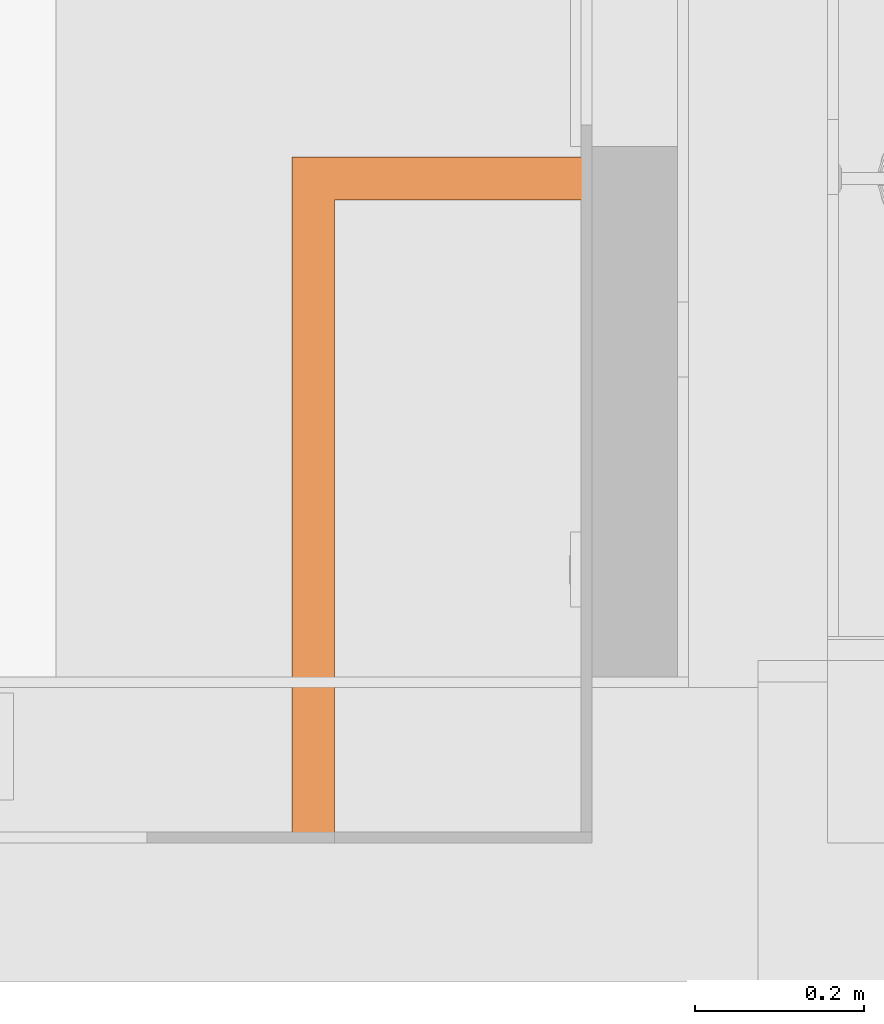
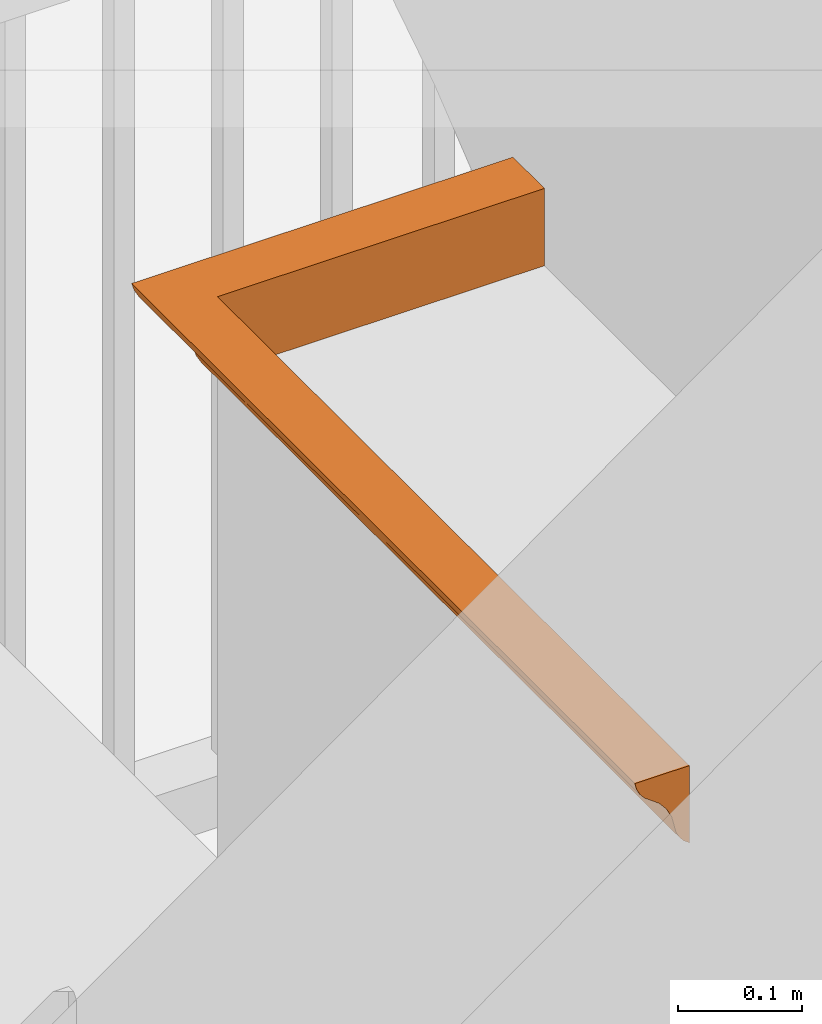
# One storey, part 80 of 81: 1 proxy.
"""IFC2X3 building model written with IfcOpenShell, lengths in feet."""

from ifc_helpers import new_model, entity, si_unit, converted_unit, derived_unit, direction, frame, origin, place, context, subcontext, project, spatial, faceted_brep, source, transform, mapped, material, type_object, type_shapes, element, save


model = new_model("IFC2X3")

# Units and contexts
model_context = context("Model", 3, precision=0.0001, world=origin(), true_north=direction((6.12303176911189e-17, 1.0)))
body_context = subcontext(model_context, "Body", "Model", "MODEL_VIEW")
ifc_project = project(units=[converted_unit("LENGTHUNIT", "FOOT", entity("IfcRatioMeasure", 0.3048), si_unit("LENGTHUNIT", "METRE"), dimensions=[1, 0, 0, 0, 0, 0, 0]), converted_unit("AREAUNIT", "SQUARE FOOT", entity("IfcRatioMeasure", 0.09290304), si_unit("AREAUNIT", "SQUARE_METRE"), dimensions=[2, 0, 0, 0, 0, 0, 0]), converted_unit("VOLUMEUNIT", "CUBIC FOOT", entity("IfcRatioMeasure", 0.028316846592), si_unit("VOLUMEUNIT", "CUBIC_METRE"), dimensions=[3, 0, 0, 0, 0, 0, 0]), converted_unit("PLANEANGLEUNIT", "DEGREE", entity("IfcRatioMeasure", 0.0174532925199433), si_unit("PLANEANGLEUNIT", "RADIAN"), dimensions=[0, 0, 0, 0, 0, 0, 0]), si_unit("MASSUNIT", "GRAM", prefix="KILO"), derived_unit("MASSDENSITYUNIT", [(si_unit("MASSUNIT", "GRAM", prefix="KILO"), 1), (si_unit("LENGTHUNIT", "METRE"), -3)]), derived_unit("MOMENTOFINERTIAUNIT", [(si_unit("LENGTHUNIT", "METRE"), 4)]), si_unit("TIMEUNIT", "SECOND"), si_unit("FREQUENCYUNIT", "HERTZ"), si_unit("THERMODYNAMICTEMPERATUREUNIT", "DEGREE_CELSIUS"), derived_unit("THERMALTRANSMITTANCEUNIT", [(si_unit("MASSUNIT", "GRAM", prefix="KILO"), 1), (si_unit("THERMODYNAMICTEMPERATUREUNIT", "KELVIN"), -1), (si_unit("TIMEUNIT", "SECOND"), -3)]), derived_unit("VOLUMETRICFLOWRATEUNIT", [(si_unit("LENGTHUNIT", "METRE"), 3), (si_unit("TIMEUNIT", "SECOND"), -1)]), si_unit("ELECTRICCURRENTUNIT", "AMPERE"), si_unit("ELECTRICVOLTAGEUNIT", "VOLT"), si_unit("POWERUNIT", "WATT"), si_unit("FORCEUNIT", "NEWTON"), si_unit("ILLUMINANCEUNIT", "LUX"), si_unit("LUMINOUSFLUXUNIT", "LUMEN"), si_unit("LUMINOUSINTENSITYUNIT", "CANDELA"), derived_unit("USERDEFINED", [(si_unit("MASSUNIT", "GRAM", prefix="KILO"), -1), (si_unit("LENGTHUNIT", "METRE"), -2), (si_unit("TIMEUNIT", "SECOND"), 3), (si_unit("LUMINOUSFLUXUNIT", "LUMEN"), 1)]), derived_unit("LINEARVELOCITYUNIT", [(si_unit("LENGTHUNIT", "METRE"), 1), (si_unit("TIMEUNIT", "SECOND"), -1)]), si_unit("PRESSUREUNIT", "PASCAL"), derived_unit("USERDEFINED", [(si_unit("LENGTHUNIT", "METRE"), -2), (si_unit("MASSUNIT", "GRAM", prefix="KILO"), 1), (si_unit("TIMEUNIT", "SECOND"), -2)]), derived_unit("LINEARFORCEUNIT", [(si_unit("MASSUNIT", "GRAM", prefix="KILO"), 1), (si_unit("LENGTHUNIT", "METRE"), 1), (si_unit("TIMEUNIT", "SECOND"), -2), (si_unit("LENGTHUNIT", "METRE"), -1)]), derived_unit("PLANARFORCEUNIT", [(si_unit("MASSUNIT", "GRAM", prefix="KILO"), 1), (si_unit("LENGTHUNIT", "METRE"), 1), (si_unit("TIMEUNIT", "SECOND"), -2), (si_unit("LENGTHUNIT", "METRE"), -2)])], contexts=[model_context])

# Site, building, storey
site_placement = place(None, origin())
site = spatial("IfcSite", under=ifc_project, at=site_placement, Name="Default", CompositionType="ELEMENT")
building_placement = place(site_placement, origin())
building = spatial("IfcBuilding", under=site, at=building_placement, CompositionType="ELEMENT")
storey_placement = place(building_placement, origin())
storey = spatial("IfcBuildingStorey", under=building, at=storey_placement, Name="First floor", CompositionType="ELEMENT", Elevation=0.0)

# Proxy
ifc_material = material(Name="Default New Material")
building_element_proxy_type = type_object("IfcBuildingElementProxyType", Name="Generic Models 29:Generic Models 28", PredefinedType="NOTDEFINED", material=ifc_material)
shared_shape = source(origin(), body_context, "Body", "Brep", [
    faceted_brep([(1.17190049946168, 2.51737449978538, 0.0179947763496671), (1.17190049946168, 2.53133511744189, 0.0344208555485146), (1.17190049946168, 2.54112818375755, 0.0536253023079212), (1.17190049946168, 2.5462250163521, 0.0745713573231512), (1.17190049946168, 2.55440824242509, 0.108201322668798), (1.17190049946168, 2.57013151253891, 0.139035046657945), (1.17190049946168, 2.59254600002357, 0.165407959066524), (1.17190049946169, 2.62044165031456, 0.185896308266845), (1.17190049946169, 2.63781615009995, 0.198657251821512), (1.17190049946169, 2.65177676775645, 0.215083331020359), (1.17190049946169, 2.66156983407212, 0.234287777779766), (1.17190049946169, 2.66666666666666, 0.255233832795), (1.17190049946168, 2.49999999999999, 0.255233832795), (1.17190049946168, 2.49999999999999, 0.00523383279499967), (0.476953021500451, 2.51318223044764, 0.0143188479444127), (0.154525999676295, 2.51737449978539, 0.0179947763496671), (0.663213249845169, 2.5248334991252, 0.0258009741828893), (0.130772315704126, 2.54112818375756, 0.0536253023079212), (0.125675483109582, 2.5462250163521, 0.0745713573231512), (0.430273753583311, 2.5462250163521, 0.0745713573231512), (0.73487202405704, 2.5462250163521, 0.0745713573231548), (0.77341230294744, 2.51339187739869, 0.0144923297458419), (0.671900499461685, 2.5, 0.00523383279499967), (0.689724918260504, 2.54241448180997, 0.0573324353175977), (0.648787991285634, 2.5462250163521, 0.0745713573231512), (0.862932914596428, 2.53679130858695, 0.0437376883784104), (0.50314522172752, 2.53704884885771, 0.0442465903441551), (0.140565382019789, 2.5313351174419, 0.0344208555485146), (0.171900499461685, 2.5, 0.00523383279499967), (0.644696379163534, 2.56137131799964, 0.124076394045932), (0.117492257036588, 2.5544082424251, 0.108201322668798), (0.741902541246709, 2.55163857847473, 0.100011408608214), (0.0793544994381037, 2.59254600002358, 0.165407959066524), (0.0514588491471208, 2.62044165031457, 0.185896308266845), (0.56270357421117, 2.62044165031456, 0.185896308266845), (0.823374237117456, 2.62044165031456, 0.185896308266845), (0.867302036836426, 2.62044165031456, 0.185896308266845), (0.625627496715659, 2.58134046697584, 0.15377374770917), (0.101768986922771, 2.57013151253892, 0.139035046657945), (0.570637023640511, 2.64604801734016, 0.207384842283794), (0.369511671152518, 2.63418645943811, 0.195449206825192), (0.0201237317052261, 2.65177676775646, 0.215083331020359), (0.0340843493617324, 2.63781615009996, 0.198657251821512), (0.715002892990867, 2.63412870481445, 0.195400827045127), (0.740866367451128, 2.66349297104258, 0.24004443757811), (0.309832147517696, 2.66666666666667, 0.255233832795), (0.614430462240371, 2.66666666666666, 0.255233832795), (0.867302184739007, 2.66666666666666, 0.255233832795), (0.798513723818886, 2.65723295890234, 0.224400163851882), (0.898316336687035, 2.64540588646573, 0.206617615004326), (0.0103306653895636, 2.66156983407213, 0.234287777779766), (0.00523383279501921, 2.66666666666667, 0.255233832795), (0.377707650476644, 2.65748701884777, 0.22490213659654), (0.00523383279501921, 2.36206822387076, 0.255233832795), (0.00523383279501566, 2.0574693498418, 0.255233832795), (0.00523383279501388, 1.69540134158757, 0.255233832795), (0.00523383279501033, 1.33333333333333, 0.255233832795), (0.00523383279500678, 0.971264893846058, 0.255233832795), (0.005233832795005, 0.609196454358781, 0.255233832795), (0.00523383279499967, 0.304598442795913, 0.255233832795), (0.00523383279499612, 0.0, 0.255233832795), (0.171900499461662, 0.0, 0.255233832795), (0.171900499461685, 2.5, 0.255233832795), (0.156071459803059, 1.6145246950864, 0.0165874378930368), (0.17190049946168, 1.89080335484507, 0.00523383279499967), (0.171900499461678, 1.55459852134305, 0.00523383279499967), (0.130010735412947, 0.807283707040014, 0.0557584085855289), (0.125675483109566, 0.609196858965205, 0.0745713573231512), (0.125675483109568, 0.771915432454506, 0.0745713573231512), (0.125675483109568, 0.96851407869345, 0.0745713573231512), (0.140565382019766, 0.0, 0.0344208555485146), (0.130772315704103, 0.0, 0.0536253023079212), (0.135109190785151, 0.528376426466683, 0.0437376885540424), (0.1467184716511, 2.28028465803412, 0.0262134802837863), (0.134853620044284, 2.17158243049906, 0.0442426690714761), (0.12567548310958, 2.24162699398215, 0.0745713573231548), (0.159154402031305, 0.45689760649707, 0.0139612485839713), (0.154525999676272, 0.0, 0.0179947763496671), (0.14706700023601, 0.360940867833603, 0.0258009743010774), (0.133081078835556, 1.6197934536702, 0.0479768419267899), (0.142208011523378, 1.67605748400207, 0.0320382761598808), (0.142841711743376, 1.35721744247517, 0.0311600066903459), (0.125675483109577, 1.93702856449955, 0.0745713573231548), (0.158838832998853, 2.04310239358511, 0.0142195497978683), (0.171900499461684, 2.19540167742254, 0.00523383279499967), (0.132242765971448, 1.14817275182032, 0.049907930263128), (0.125675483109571, 1.32783170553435, 0.0745713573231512), (0.128767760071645, 0.456897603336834, 0.0596566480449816), (0.125675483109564, 0.304598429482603, 0.0745713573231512), (0.171900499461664, 0.304598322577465, 0.00523383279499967), (0.171900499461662, 0.0, 0.00523383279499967), (0.155851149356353, 1.27182243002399, 0.0167841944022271), (0.171900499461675, 1.21839368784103, 0.00523383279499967), (0.171900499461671, 0.913795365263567, 0.00523383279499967), (0.146284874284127, 1.97425940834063, 0.0267335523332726), (0.137597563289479, 0.896542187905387, 0.0391780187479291), (0.149605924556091, 0.648339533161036, 0.0229356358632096), (0.125675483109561, 0.0, 0.0745713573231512), (0.12567548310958, 2.16026732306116, 0.0745713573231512), (0.125675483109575, 1.5438308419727, 0.0745713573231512), (0.125675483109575, 1.63243013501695, 0.0745713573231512), (0.171900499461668, 0.609196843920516, 0.00523383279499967), (0.148642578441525, 0.942073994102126, 0.0239949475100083), (0.101768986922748, 0.0, 0.139035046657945), (0.11052918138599, 0.455823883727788, 0.124076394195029), (0.117492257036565, 0.0, 0.108201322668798), (0.0514588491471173, 1.84852622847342, 0.185896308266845), (0.0514588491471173, 2.01124496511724, 0.185896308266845), (0.0514588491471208, 2.31584341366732, 0.185896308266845), (0.0793544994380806, 0.0, 0.165407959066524), (0.0514588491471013, 0.0, 0.185896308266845), (0.0340843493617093, 0.0, 0.198657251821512), (0.0514588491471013, 0.304598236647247, 0.185896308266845), (0.0514588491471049, 0.538305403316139, 0.185896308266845), (0.090764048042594, 2.18750932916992, 0.153537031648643), (0.11010511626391, 1.96448238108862, 0.124901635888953), (0.12061507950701, 1.9311509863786, 0.0988406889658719), (0.0913303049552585, 0.631613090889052, 0.152874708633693), (0.088717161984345, 1.16149555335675, 0.155867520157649), (0.105455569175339, 1.46823784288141, 0.133218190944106), (0.110529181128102, 0.999542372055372, 0.124076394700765), (0.121190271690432, 0.45692686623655, 0.0968548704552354), (0.0717838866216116, 0.807458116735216, 0.171997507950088), (0.0514588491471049, 0.609196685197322, 0.185896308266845), (0.0514588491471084, 0.913795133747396, 0.185896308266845), (0.0514588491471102, 1.07661080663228, 0.185896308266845), (0.0900498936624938, 1.69460365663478, 0.154361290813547), (0.0514588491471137, 1.46256846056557, 0.185896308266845), (0.120393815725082, 0.914246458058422, 0.0995782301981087), (0.118023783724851, 1.47051869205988, 0.106744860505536), (0.0514588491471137, 1.61481927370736, 0.185896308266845), (0.0514588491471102, 1.21839358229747, 0.185896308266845), (0.0355262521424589, 1.22767271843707, 0.197342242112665), (0.00953519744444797, 0.814612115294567, 0.236519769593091), (0.020123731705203, 0.0, 0.215083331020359), (0.0103306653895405, 0.0, 0.234287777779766), (0.0146675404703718, 0.528376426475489, 0.224400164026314), (0.0266253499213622, 0.36094086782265, 0.206463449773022), (0.0144119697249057, 2.29202408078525, 0.22490514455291), (0.0124507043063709, 1.72583030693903, 0.229063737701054), (0.0150219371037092, 1.44258361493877, 0.22371228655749), (0.00836926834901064, 1.49352150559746, 0.240173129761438), (0.0387127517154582, 0.456897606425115, 0.194623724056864), (0.0167047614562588, 1.97744672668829, 0.220623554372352), (0.0258432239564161, 2.09470105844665, 0.207396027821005), (0.00832610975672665, 0.456897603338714, 0.240319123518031), (0.0262768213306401, 2.4007263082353, 0.206875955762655), (0.0383971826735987, 2.16354404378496, 0.194882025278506), (0.037752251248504, 1.8203205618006, 0.195417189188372), (0.0297071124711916, 1.53360813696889, 0.203015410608), (0.00962196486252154, 2.03274029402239, 0.236267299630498), (0.0129875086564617, 1.15229919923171, 0.227871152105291), (0.0175013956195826, 0.838992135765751, 0.219252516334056), (0.0258439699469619, 1.80527626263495, 0.207395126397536), (0.0291642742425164, 0.648339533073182, 0.203598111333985), (0.0223986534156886, 1.260220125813, 0.211824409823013), (0.0282009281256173, 0.942073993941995, 0.204657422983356)], [[[0, 1, 2, 3, 4, 5, 6, 7, 8, 9, 10, 11, 12, 13]], [[14, 15, 16]], [[17, 18, 19]], [[3, 2, 20]], [[21, 13, 22]], [[0, 16, 1]], [[23, 19, 24, 20]], [[25, 2, 1]], [[17, 26, 27]], [[23, 25, 26]], [[22, 14, 21]], [[26, 16, 27]], [[25, 16, 26]], [[26, 17, 19]], [[14, 28, 15]], [[23, 2, 25]], [[16, 25, 1]], [[19, 23, 26]], [[27, 16, 15]], [[2, 23, 20]], [[21, 14, 16]], [[28, 14, 22]], [[16, 0, 21]], [[13, 21, 0]], [[29, 5, 4]], [[18, 30, 31]], [[31, 29, 4]], [[32, 33, 34, 35]], [[6, 35, 36, 8, 7]], [[5, 29, 37]], [[38, 37, 29]], [[3, 31, 4]], [[6, 37, 35]], [[29, 30, 38]], [[37, 38, 32]], [[37, 32, 35]], [[31, 3, 20, 24, 19, 18]], [[37, 6, 5]], [[29, 31, 30]], [[39, 40, 41]], [[33, 42, 40]], [[43, 36, 35, 34]], [[44, 45, 46, 47]], [[48, 9, 49]], [[43, 8, 36]], [[40, 43, 34]], [[44, 10, 48]], [[10, 47, 11]], [[50, 51, 45]], [[10, 44, 47]], [[9, 48, 10]], [[49, 8, 43]], [[40, 39, 43]], [[52, 39, 41]], [[50, 45, 52]], [[48, 39, 52]], [[41, 50, 52]], [[43, 39, 49]], [[33, 40, 34]], [[40, 42, 41]], [[48, 49, 39]], [[8, 49, 9]], [[52, 45, 44]], [[52, 44, 48]], [[11, 47, 46, 45, 51, 53, 54, 55, 56, 57, 58, 59, 60, 61, 62, 12]], [[13, 12, 62, 28, 22]], [[63, 64, 65]], [[66, 67, 68, 69]], [[70, 71, 72]], [[27, 73, 74]], [[74, 75, 17]], [[76, 77, 78]], [[79, 80, 81]], [[70, 78, 77]], [[74, 79, 82]], [[64, 83, 84]], [[79, 85, 86]], [[78, 70, 72]], [[67, 87, 88]], [[15, 28, 84]], [[77, 89, 90]], [[87, 71, 88]], [[91, 65, 92, 93]], [[27, 74, 17]], [[27, 15, 73]], [[94, 80, 74]], [[81, 95, 85]], [[94, 83, 63]], [[95, 96, 72]], [[72, 87, 66]], [[80, 63, 81]], [[63, 83, 64]], [[84, 83, 15]], [[83, 94, 73]], [[81, 63, 91]], [[81, 85, 79]], [[71, 97, 88]], [[75, 98, 30, 18, 17]], [[79, 86, 99, 100, 82]], [[71, 87, 72]], [[95, 66, 85]], [[85, 69, 86]], [[95, 72, 66]], [[67, 66, 87]], [[69, 85, 66]], [[77, 76, 89]], [[101, 89, 76]], [[96, 76, 78]], [[72, 96, 78]], [[102, 93, 96]], [[74, 82, 98, 75]], [[95, 102, 96]], [[65, 91, 63]], [[95, 81, 102]], [[83, 73, 15]], [[74, 73, 94]], [[101, 96, 93]], [[102, 81, 91]], [[91, 93, 102]], [[101, 76, 96]], [[74, 80, 79]], [[63, 80, 94]], [[103, 104, 105]], [[32, 106, 107, 108, 42, 33]], [[109, 110, 111, 112, 113]], [[114, 38, 115]], [[115, 30, 116]], [[104, 103, 117]], [[118, 119, 120]], [[121, 68, 67, 88, 97]], [[109, 117, 103]], [[122, 113, 123, 124, 125]], [[126, 118, 127]], [[128, 121, 104]], [[115, 38, 30]], [[114, 126, 106]], [[38, 114, 32]], [[122, 117, 109]], [[120, 129, 128]], [[120, 119, 129]], [[120, 128, 104]], [[113, 122, 109]], [[126, 127, 130, 106]], [[129, 115, 116]], [[117, 122, 118]], [[117, 118, 120]], [[129, 116, 99]], [[105, 104, 121]], [[120, 104, 117]], [[105, 121, 97]], [[128, 68, 121]], [[128, 99, 86, 69, 68]], [[99, 128, 129]], [[116, 98, 82, 100, 99]], [[126, 115, 119]], [[129, 119, 115]], [[126, 119, 118]], [[32, 114, 106]], [[126, 114, 115]], [[118, 122, 125]], [[118, 125, 131, 127]], [[98, 116, 30]], [[132, 130, 127, 131, 125, 124]], [[133, 58, 57]], [[134, 135, 136]], [[137, 134, 136]], [[138, 53, 50]], [[139, 140, 141]], [[142, 111, 137]], [[134, 137, 111]], [[143, 138, 144]], [[145, 135, 59]], [[141, 55, 139]], [[41, 146, 138]], [[58, 145, 59]], [[41, 42, 146]], [[107, 147, 108]], [[148, 130, 149]], [[41, 138, 50]], [[150, 143, 139]], [[151, 152, 133]], [[148, 153, 144]], [[154, 124, 123]], [[152, 154, 136]], [[133, 136, 145]], [[155, 149, 132]], [[147, 148, 144]], [[149, 130, 132]], [[147, 107, 148]], [[108, 147, 42]], [[147, 144, 146]], [[148, 107, 106, 130]], [[148, 149, 153]], [[135, 60, 59]], [[53, 51, 50]], [[151, 57, 56]], [[135, 145, 136]], [[133, 145, 58]], [[136, 133, 152]], [[140, 149, 155]], [[57, 151, 133]], [[151, 155, 152]], [[111, 142, 112]], [[142, 123, 113, 112]], [[154, 142, 137]], [[136, 154, 137]], [[156, 124, 154]], [[138, 150, 53]], [[154, 152, 156]], [[140, 153, 149]], [[143, 153, 139]], [[147, 146, 42]], [[138, 146, 144]], [[55, 150, 139]], [[54, 53, 150, 55]], [[138, 143, 150]], [[153, 143, 144]], [[132, 124, 156]], [[123, 142, 154]], [[156, 152, 155]], [[156, 155, 132]], [[140, 155, 151]], [[141, 151, 56]], [[140, 139, 153]], [[151, 141, 140]], [[55, 141, 56]], [[62, 61, 90, 89, 101, 93, 92, 65, 64, 84, 28]], [[90, 61, 60, 135, 134, 111, 110, 109, 103, 105, 97, 71, 70, 77]]]),
])
type_shapes(building_element_proxy_type, [shared_shape])
proxy_placement = place(storey_placement, frame((11.369766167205, 0.541666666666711, 18.494766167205)))
element("IfcBuildingElementProxy", 1, at=proxy_placement, inside=storey, type_object=building_element_proxy_type, material=ifc_material, Name="Generic Models 29:Generic Models 28", ObjectType="Generic Models 29:Generic Models 28", context=body_context, shape_type="MappedRepresentation", body=[
    mapped(shared_shape, transform((0.0, 0.0, 0.0), scale=1.0)),
])

save(model, "model.ifc")
